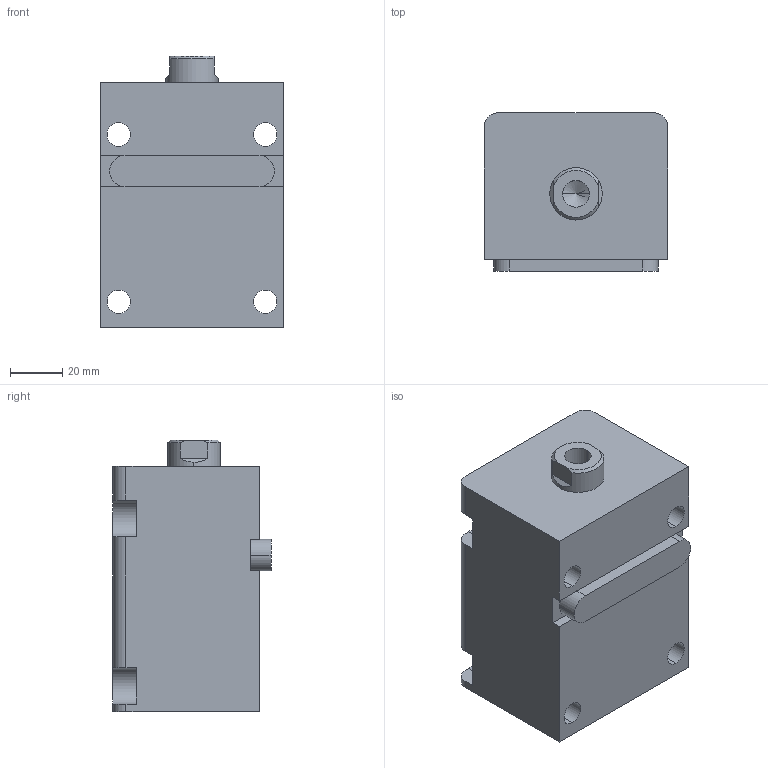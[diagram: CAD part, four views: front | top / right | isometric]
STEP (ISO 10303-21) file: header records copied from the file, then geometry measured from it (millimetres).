
FILE_DESCRIPTION (( 'STEP AP203' ), '1' );
FILE_NAME ('HTB-LA32-40N.STEP', '2019-10-09T06:27:45', ( '微软用户' ), ( '微软中国' ), 'SwSTEP 2.0', 'SolidWorks 2012', '' );
FILE_SCHEMA (( 'CONFIG_CONTROL_DESIGN' ));
Length unit declared in the file: millimetre
Products named in the file (4): HTB-LA32-40掛极; HTB-LA32-40N活塞杆; HTB-LA32-瑩; HTB-LA32-40N
Assembly tree (3 placements, depth 2):
  HTB-LA32-40N
    HTB-LA32-40掛极
    HTB-LA32-40N活塞杆
    HTB-LA32-瑩
Bounding box: 70 x 60.5 x 104 mm (x, y, z)
Volume: 332414.9 mm3; surface area: 57442.4 mm2
Topology: 3 solids, 3 shells, 88 faces, 217 edges, 141 vertices
Faces by surface type: plane 39, cylinder 35, cone 8, torus 6
Entity records: 3053 total; most frequent: DIRECTION 487, CARTESIAN_POINT 478, ORIENTED_EDGE 430, EDGE_CURVE 215, AXIS2_PLACEMENT_3D 186, VERTEX_POINT 141, LINE 115, VECTOR 115
